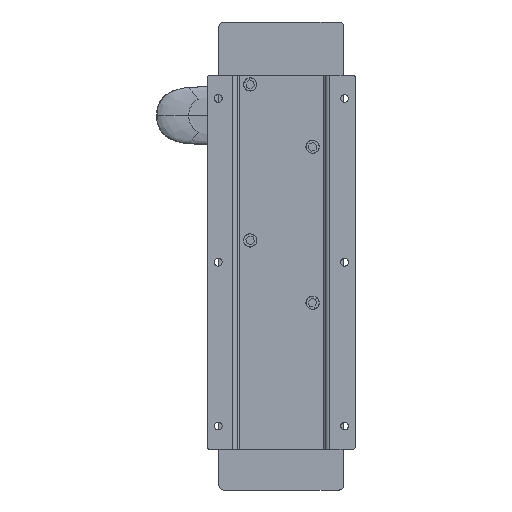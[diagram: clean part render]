
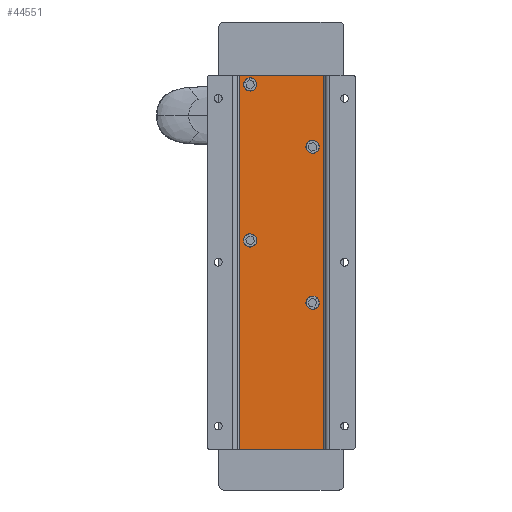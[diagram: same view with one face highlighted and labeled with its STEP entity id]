
A CAD part, left-side view. The second image highlights one B-rep face of the part: STEP entity #44551.
In plain terms, the highlighted planar face has unit normal (-1, 0, 0) as drawn and (0, 0, -1) by its records, which use the part's own axes.
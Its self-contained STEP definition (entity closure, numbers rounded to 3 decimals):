
#282 = CIRCLE ( 'NONE', #26448, 3.25 ) ;
#509 = DIRECTION ( 'NONE',  ( 0., 0., 1. ) ) ;
#814 = EDGE_CURVE ( 'NONE', #18178, #15426, #282, .T. ) ;
#837 = VERTEX_POINT ( 'NONE', #32595 ) ;
#842 = AXIS2_PLACEMENT_3D ( 'NONE', #3710, #509, #23953 ) ;
#1042 = VERTEX_POINT ( 'NONE', #31218 ) ;
#1264 = EDGE_LOOP ( 'NONE', ( #22716, #32264 ) ) ;
#1489 = ORIENTED_EDGE ( 'NONE', *, *, #7246, .T. ) ;
#1767 = ORIENTED_EDGE ( 'NONE', *, *, #17738, .T. ) ;
#1815 = FACE_BOUND ( 'NONE', #1264, .T. ) ;
#2390 = CARTESIAN_POINT ( 'NONE',  ( -120., -27., -2. ) ) ;
#3311 = AXIS2_PLACEMENT_3D ( 'NONE', #30722, #27288, #17741 ) ;
#3710 = CARTESIAN_POINT ( 'NONE',  ( -114., 20., -2. ) ) ;
#3910 = EDGE_LOOP ( 'NONE', ( #10899, #26492, #19550, #23577 ) ) ;
#3980 = EDGE_CURVE ( 'NONE', #29259, #28633, #23415, .T. ) ;
#4022 = CARTESIAN_POINT ( 'NONE',  ( -114., 20., -2. ) ) ;
#4182 = EDGE_CURVE ( 'NONE', #15489, #837, #8775, .T. ) ;
#4910 = DIRECTION ( 'NONE',  ( -1., 0., 0. ) ) ;
#5170 = CIRCLE ( 'NONE', #16796, 3.25 ) ;
#5875 = VECTOR ( 'NONE', #4910, 1000. ) ;
#6140 = CARTESIAN_POINT ( 'NONE',  ( -14., 20., -2. ) ) ;
#6671 = EDGE_CURVE ( 'NONE', #23753, #15489, #20885, .T. ) ;
#7246 = EDGE_CURVE ( 'NONE', #13502, #1042, #5170, .T. ) ;
#7590 = EDGE_LOOP ( 'NONE', ( #31708, #28223 ) ) ;
#7818 = DIRECTION ( 'NONE',  ( 0., 0., 1. ) ) ;
#8553 = CARTESIAN_POINT ( 'NONE',  ( -120., -27., -2. ) ) ;
#8775 = LINE ( 'NONE', #19245, #5875 ) ;
#10418 = DIRECTION ( 'NONE',  ( 1., 0., 0. ) ) ;
#10482 = EDGE_CURVE ( 'NONE', #20857, #23753, #30196, .T. ) ;
#10851 = DIRECTION ( 'NONE',  ( 0., 0., 1. ) ) ;
#10899 = ORIENTED_EDGE ( 'NONE', *, *, #29096, .F. ) ;
#11974 = DIRECTION ( 'NONE',  ( 0., -1., 0. ) ) ;
#12945 = ORIENTED_EDGE ( 'NONE', *, *, #40519, .T. ) ;
#13502 = VERTEX_POINT ( 'NONE', #39628 ) ;
#14230 = CARTESIAN_POINT ( 'NONE',  ( -77.25, -20., -2. ) ) ;
#14388 = FACE_BOUND ( 'NONE', #31947, .T. ) ;
#14396 = VECTOR ( 'NONE', #11974, 1000. ) ;
#15426 = VERTEX_POINT ( 'NONE', #18091 ) ;
#15489 = VERTEX_POINT ( 'NONE', #18530 ) ;
#16562 = DIRECTION ( 'NONE',  ( 0., 1., 0. ) ) ;
#16796 = AXIS2_PLACEMENT_3D ( 'NONE', #6140, #40908, #30473 ) ;
#17614 = CARTESIAN_POINT ( 'NONE',  ( 0., 0., -2. ) ) ;
#17692 = CARTESIAN_POINT ( 'NONE',  ( 120., -27., -2. ) ) ;
#17738 = EDGE_CURVE ( 'NONE', #1042, #13502, #34753, .T. ) ;
#17741 = DIRECTION ( 'NONE',  ( 1., 0., 0. ) ) ;
#17903 = DIRECTION ( 'NONE',  ( 1., 0., 0. ) ) ;
#18035 = FACE_BOUND ( 'NONE', #7590, .T. ) ;
#18091 = CARTESIAN_POINT ( 'NONE',  ( 29.25, -20., -2. ) ) ;
#18178 = VERTEX_POINT ( 'NONE', #35065 ) ;
#18530 = CARTESIAN_POINT ( 'NONE',  ( 120., 27., -2. ) ) ;
#18935 = VECTOR ( 'NONE', #16562, 1000. ) ;
#19245 = CARTESIAN_POINT ( 'NONE',  ( 120., 27., -2. ) ) ;
#19284 = CARTESIAN_POINT ( 'NONE',  ( 120., -27., -2. ) ) ;
#19550 = ORIENTED_EDGE ( 'NONE', *, *, #6671, .F. ) ;
#19869 = AXIS2_PLACEMENT_3D ( 'NONE', #17614, #38500, #28486 ) ;
#20857 = VERTEX_POINT ( 'NONE', #2390 ) ;
#20885 = LINE ( 'NONE', #27239, #18935 ) ;
#21222 = AXIS2_PLACEMENT_3D ( 'NONE', #4022, #10851, #17903 ) ;
#21512 = DIRECTION ( 'NONE',  ( 1., 0., 0. ) ) ;
#21695 = DIRECTION ( 'NONE',  ( 1., 0., 0. ) ) ;
#22716 = ORIENTED_EDGE ( 'NONE', *, *, #25696, .T. ) ;
#23383 = DIRECTION ( 'NONE',  ( 0., 0., 1. ) ) ;
#23415 = CIRCLE ( 'NONE', #21222, 3.25 ) ;
#23559 = CARTESIAN_POINT ( 'NONE',  ( -117.25, 20., -2. ) ) ;
#23577 = ORIENTED_EDGE ( 'NONE', *, *, #10482, .F. ) ;
#23753 = VERTEX_POINT ( 'NONE', #19284 ) ;
#23953 = DIRECTION ( 'NONE',  ( 1., 0., 0. ) ) ;
#24823 = ORIENTED_EDGE ( 'NONE', *, *, #3980, .T. ) ;
#25321 = DIRECTION ( 'NONE',  ( 0., 0., 1. ) ) ;
#25696 = EDGE_CURVE ( 'NONE', #37253, #43948, #38136, .T. ) ;
#25707 = FACE_BOUND ( 'NONE', #42574, .T. ) ;
#25872 = EDGE_CURVE ( 'NONE', #15426, #18178, #38875, .T. ) ;
#25988 = CARTESIAN_POINT ( 'NONE',  ( 26., -20., -2. ) ) ;
#26448 = AXIS2_PLACEMENT_3D ( 'NONE', #25988, #25321, #29185 ) ;
#26492 = ORIENTED_EDGE ( 'NONE', *, *, #4182, .F. ) ;
#27007 = CARTESIAN_POINT ( 'NONE',  ( -74., -20., -2. ) ) ;
#27239 = CARTESIAN_POINT ( 'NONE',  ( 120., -27., -2. ) ) ;
#27288 = DIRECTION ( 'NONE',  ( 0., 0., 1. ) ) ;
#27717 = VECTOR ( 'NONE', #10418, 1000. ) ;
#27874 = DIRECTION ( 'NONE',  ( 0., 0., 1. ) ) ;
#28223 = ORIENTED_EDGE ( 'NONE', *, *, #814, .T. ) ;
#28486 = DIRECTION ( 'NONE',  ( 1., 0., 0. ) ) ;
#28633 = VERTEX_POINT ( 'NONE', #30121 ) ;
#29096 = EDGE_CURVE ( 'NONE', #837, #20857, #33123, .T. ) ;
#29185 = DIRECTION ( 'NONE',  ( 1., 0., 0. ) ) ;
#29259 = VERTEX_POINT ( 'NONE', #23559 ) ;
#30121 = CARTESIAN_POINT ( 'NONE',  ( -110.75, 20., -2. ) ) ;
#30152 = AXIS2_PLACEMENT_3D ( 'NONE', #38968, #7818, #21695 ) ;
#30196 = LINE ( 'NONE', #17692, #27717 ) ;
#30473 = DIRECTION ( 'NONE',  ( 1., 0., 0. ) ) ;
#30653 = CARTESIAN_POINT ( 'NONE',  ( -70.75, -20., -2. ) ) ;
#30722 = CARTESIAN_POINT ( 'NONE',  ( 26., -20., -2. ) ) ;
#31218 = CARTESIAN_POINT ( 'NONE',  ( -10.75, 20., -2. ) ) ;
#31708 = ORIENTED_EDGE ( 'NONE', *, *, #25872, .T. ) ;
#31947 = EDGE_LOOP ( 'NONE', ( #1767, #1489 ) ) ;
#32264 = ORIENTED_EDGE ( 'NONE', *, *, #37280, .T. ) ;
#32595 = CARTESIAN_POINT ( 'NONE',  ( -120., 27., -2. ) ) ;
#33123 = LINE ( 'NONE', #8553, #14396 ) ;
#33828 = DIRECTION ( 'NONE',  ( 1., 0., 0. ) ) ;
#34753 = CIRCLE ( 'NONE', #37037, 3.25 ) ;
#34995 = CIRCLE ( 'NONE', #842, 3.25 ) ;
#35065 = CARTESIAN_POINT ( 'NONE',  ( 22.75, -20., -2. ) ) ;
#35330 = FACE_OUTER_BOUND ( 'NONE', #3910, .T. ) ;
#36149 = PLANE ( 'NONE',  #19869 ) ;
#36176 = AXIS2_PLACEMENT_3D ( 'NONE', #27007, #23383, #33828 ) ;
#37037 = AXIS2_PLACEMENT_3D ( 'NONE', #42185, #27874, #21512 ) ;
#37253 = VERTEX_POINT ( 'NONE', #30653 ) ;
#37280 = EDGE_CURVE ( 'NONE', #43948, #37253, #43434, .T. ) ;
#38136 = CIRCLE ( 'NONE', #30152, 3.25 ) ;
#38500 = DIRECTION ( 'NONE',  ( 0., 0., 1. ) ) ;
#38875 = CIRCLE ( 'NONE', #3311, 3.25 ) ;
#38968 = CARTESIAN_POINT ( 'NONE',  ( -74., -20., -2. ) ) ;
#39628 = CARTESIAN_POINT ( 'NONE',  ( -17.25, 20., -2. ) ) ;
#40519 = EDGE_CURVE ( 'NONE', #28633, #29259, #34995, .T. ) ;
#40908 = DIRECTION ( 'NONE',  ( 0., 0., 1. ) ) ;
#42185 = CARTESIAN_POINT ( 'NONE',  ( -14., 20., -2. ) ) ;
#42574 = EDGE_LOOP ( 'NONE', ( #12945, #24823 ) ) ;
#43434 = CIRCLE ( 'NONE', #36176, 3.25 ) ;
#43948 = VERTEX_POINT ( 'NONE', #14230 ) ;
#44551 = ADVANCED_FACE ( 'NONE', ( #25707, #1815, #14388, #18035, #35330 ), #36149, .F. ) ;
